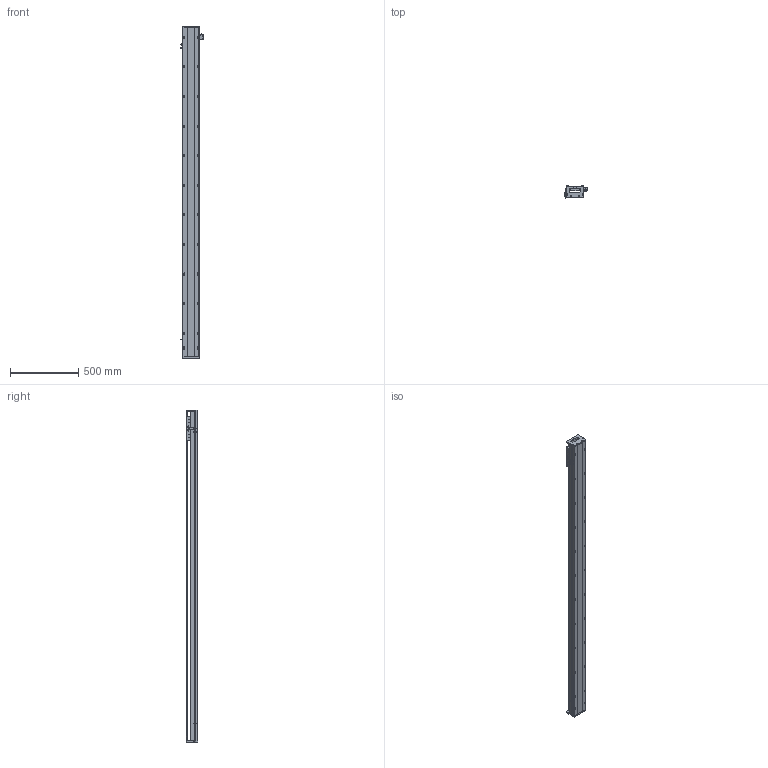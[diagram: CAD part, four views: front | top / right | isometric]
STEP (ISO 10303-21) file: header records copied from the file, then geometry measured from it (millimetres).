
FILE_DESCRIPTION (( 'STEP AP203' ), '1' );
FILE_NAME ('SKR12S-C1-S2154（简）.STEP', '2022-09-26T03:02:21', ( '' ), ( '' ), 'SwSTEP 2.0', 'SolidWorks 2018', '' );
FILE_SCHEMA (( 'CONFIG_CONTROL_DESIGN' ));
Length unit declared in the file: millimetre
Products named in the file (8): EE-SX672; SKR12S-C1-S2154（简）; SKR12菁釱-C1-S2154(潠); 覜茼え; SIKO棠掑; 棠掑假蚾輸; SKR12滑台-170L（简）; SKR12耜啣
Assembly tree (10 placements, depth 2):
  SKR12S-C1-S2154（简）
    SKR12菁釱-C1-S2154(潠)
    SKR12滑台-170L（简）
    SKR12耜啣  x2
    棠掑假蚾輸
    SIKO棠掑
    覜茼え
    EE-SX672  x3
Bounding box: 162.7 x 87.3 x 2424 mm (x, y, z)
Volume: 10355959.8 mm3; surface area: 1623276.6 mm2
Topology: 11 solids, 11 shells, 1142 faces, 3065 edges, 1933 vertices
Faces by surface type: cylinder 559, plane 425, cone 158
Entity records: 32441 total; most frequent: CARTESIAN_POINT 7111, DIRECTION 5219, ORIENTED_EDGE 5046, EDGE_CURVE 2523, AXIS2_PLACEMENT_3D 1953, VERTEX_POINT 1637, LINE 1313, VECTOR 1313
